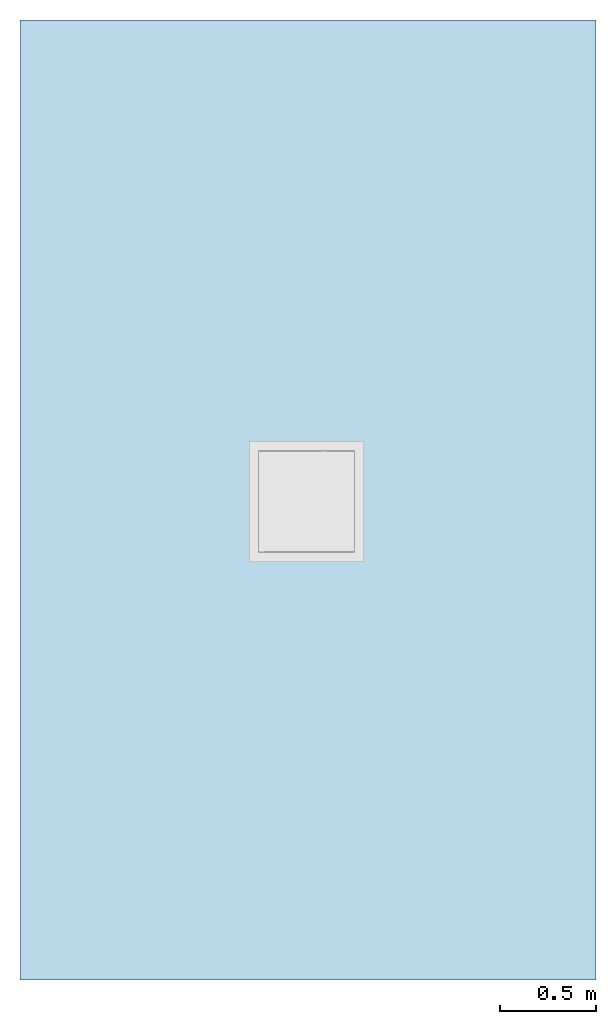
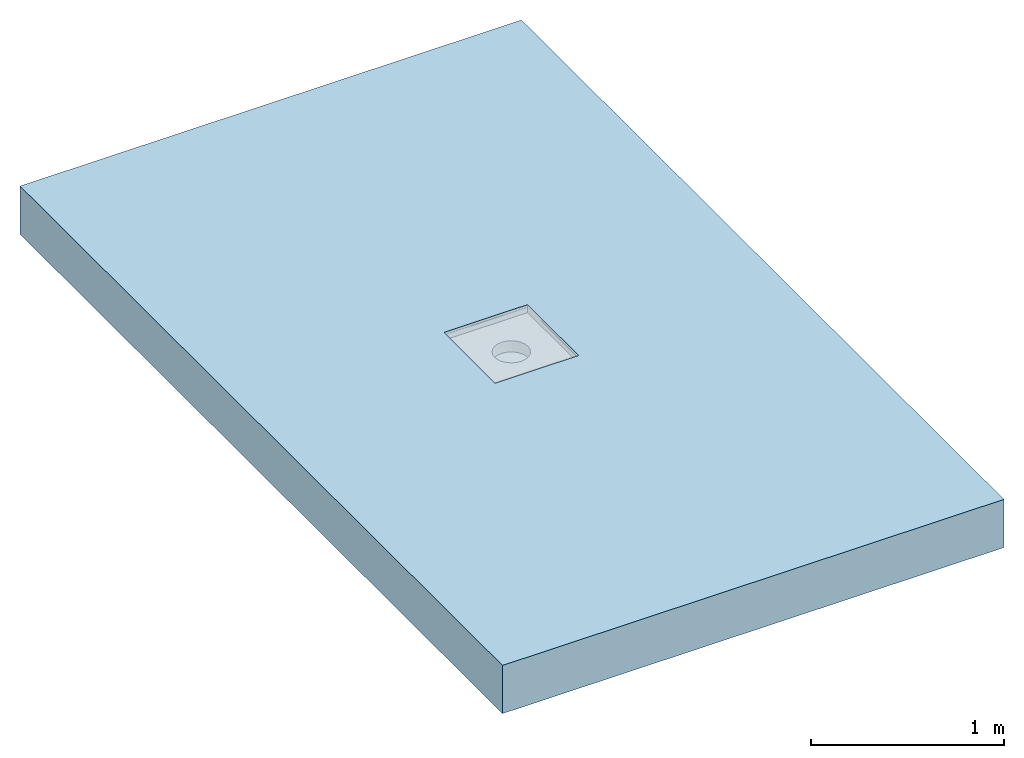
# One storey, incomplete: 1 slab, 1 opening.
"""IFC2X3 building model written with IfcOpenShell, lengths in millimetres."""

from ifc_helpers import new_model, entity, si_unit, converted_unit, derived_unit, direction, frame, frame_2d, origin, place, context, subcontext, project, spatial, rectangle, extrude, faceted_brep, material, layer, layer_set, layer_usage, element, save


model = new_model("IFC2X3")

# Units and contexts
model_context = context("Model", 3, precision=1e-05, world=origin(), true_north=direction((2.0, 6.12303176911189e-17, 1.0)))
context_of_model = context(None, 3, precision=1e-05, world=origin(), true_north=direction((2.0, 6.12303176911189e-17, 1.0)))
body_context = subcontext(model_context, "Body", "Model", "MODEL_VIEW")
ifc_project = project(units=[si_unit("LENGTHUNIT", "METRE", prefix="MILLI"), converted_unit("AREAUNIT", "SQUARE FOOT", entity("IfcRatioMeasure", 0.09290304), si_unit("AREAUNIT", "SQUARE_METRE"), dimensions=[2, 0, 0, 0, 0, 0, 0]), converted_unit("VOLUMEUNIT", "CUBIC FOOT", entity("IfcRatioMeasure", 0.028316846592), si_unit("VOLUMEUNIT", "CUBIC_METRE"), dimensions=[3, 0, 0, 0, 0, 0, 0]), converted_unit("PLANEANGLEUNIT", "DEGREE", entity("IfcRatioMeasure", 0.0174532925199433), si_unit("PLANEANGLEUNIT", "RADIAN"), dimensions=[0, 0, 0, 0, 0, 0, 0]), si_unit("MASSUNIT", "GRAM", prefix="KILO"), si_unit("TIMEUNIT", "SECOND"), si_unit("THERMODYNAMICTEMPERATUREUNIT", "KELVIN"), derived_unit("THERMALTRANSMITTANCEUNIT", [(si_unit("MASSUNIT", "GRAM", prefix="KILO"), 1), (si_unit("THERMODYNAMICTEMPERATUREUNIT", "KELVIN"), -1), (si_unit("TIMEUNIT", "SECOND"), -3)]), derived_unit("VOLUMETRICFLOWRATEUNIT", [(si_unit("LENGTHUNIT", "METRE"), 3), (si_unit("TIMEUNIT", "SECOND"), -1)]), si_unit("POWERUNIT", "WATT")], contexts=[model_context, context_of_model])

# Site, building, storey
site_placement = place(None, origin())
site = spatial("IfcSite", under=ifc_project, at=site_placement, Name="Default", CompositionType="ELEMENT")
building_placement = place(site_placement, origin())
building = spatial("IfcBuilding", under=site, at=building_placement, CompositionType="ELEMENT")
storey_placement = place(building_placement, origin())
storey = spatial("IfcBuildingStorey", under=building, at=storey_placement, Name="Level 1", CompositionType="ELEMENT", Elevation=0.0)

# Slab, opening
ifc_material = material(Name="Default Floor")
ifc_layer = layer(ifc_material, 304.8)
ifc_layer_set = layer_set([ifc_layer], Name="Floor:Generic - 12\"")
ifc_layer_usage = layer_usage(ifc_layer_set, "AXIS3", "POSITIVE", 0.0)
slab_placement = place(storey_placement, frame((-2592.42688678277, 381.838531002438, -304.8)))
slab = element("IfcSlab", 1, at=slab_placement, inside=storey, material=ifc_layer_usage, Name="Floor:Generic - 12\"", ObjectType="Floor:Generic - 12\"", PredefinedType="FLOOR", context=body_context, shape_type="SweptSolid", body=[
    extrude(rectangle(XDim=5000.0, YDim=3000.0, at=frame_2d((0.0, 0.0), x_axis=(0.0, -1.0))), frame((1500.0, 2500.0, 304.8), z_axis=(0.0, 0.0, -1.0), x_axis=(-1.0, 0.0, 0.0)), (0.0, 0.0, 1.0), 304.8),
])
opening_placement = place(slab_placement, frame((1191.52205819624, 2177.41393615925, 184.151793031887)))
element("IfcOpeningElement", 2, at=opening_placement, cuts=slab, ObjectType="Recess", context=body_context, shape_type="Brep", body=[
    faceted_brep([(50.0, 50.0, 105.648206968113), (50.0, 50.0, 120.648206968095), (50.0, 580.0, 120.648206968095), (50.0, 580.0, 105.648206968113), (50.0, 50.0, 70.6482069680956), (50.0, 50.0, 104.148206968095), (50.0, 580.0, 104.148206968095), (50.0, 580.0, 70.6482069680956), (549.667309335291, 50.0, 104.148206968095), (549.667309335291, 50.0, 70.648206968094), (549.667309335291, 580.0, 70.648206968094), (549.667309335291, 580.0, 104.148206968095), (549.667309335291, 50.0, 120.648206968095), (549.667309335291, 50.0, 105.648206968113), (549.667309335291, 580.0, 105.648206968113), (549.667309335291, 580.0, 120.648206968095), (249.833654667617, 228.397459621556, 70.6482069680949), (273.951750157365, 218.407417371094, 70.6482069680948), (229.122976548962, 244.289321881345, 70.648206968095), (299.833654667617, 215.0, 70.6482069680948), (199.833654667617, 315.0, 70.6482069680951), (203.24107203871, 289.118095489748, 70.6482069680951), (213.231114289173, 265.0, 70.648206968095), (325.715559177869, 218.407417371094, 70.6482069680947), (349.833654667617, 228.397459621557, 70.6482069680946), (370.544332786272, 244.289321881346, 70.6482069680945), (386.436195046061, 265.0, 70.6482069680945), (396.426237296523, 289.118095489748, 70.6482069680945), (399.833654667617, 315.0, 70.6482069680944), (213.231114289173, 365.0, 70.648206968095), (203.24107203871, 340.881904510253, 70.6482069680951), (229.122976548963, 385.710678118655, 70.648206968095), (249.833654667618, 401.602540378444, 70.6482069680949), (273.951750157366, 411.592582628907, 70.6482069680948), (299.833654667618, 415.0, 70.6482069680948), (396.426237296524, 340.881904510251, 70.6482069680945), (386.436195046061, 365.0, 70.6482069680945), (349.833654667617, 401.602540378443, 70.6482069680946), (325.715559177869, 411.592582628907, 70.6482069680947), (370.544332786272, 385.710678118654, 70.6482069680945), (299.833654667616, 215.0, 0.0), (273.951750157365, 411.592582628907, 0.0), (325.715559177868, 218.407417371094, 0.0), (249.833654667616, 228.397459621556, 0.0), (273.951750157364, 218.407417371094, 0.0), (229.122976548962, 385.710678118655, 0.0), (229.122976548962, 244.289321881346, 0.0), (213.231114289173, 265.0, 0.0), (370.544332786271, 385.710678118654, 0.0), (349.833654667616, 228.397459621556, 0.0), (370.544332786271, 244.289321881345, 0.0), (396.426237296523, 289.118095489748, 0.0), (396.426237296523, 340.881904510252, 0.0), (399.833654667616, 315.0, 0.0), (386.43619504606, 265.0, 0.0), (203.241072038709, 289.118095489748, 0.0), (203.24107203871, 340.881904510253, 0.0), (213.231114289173, 365.0, 0.0), (249.833654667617, 401.602540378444, 0.0), (386.43619504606, 365.0, 0.0), (325.715559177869, 411.592582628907, 0.0), (349.833654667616, 401.602540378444, 0.0), (299.833654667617, 415.0, 0.0), (199.833654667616, 315.0, 0.0), (0.0, 0.0, 104.148206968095), (599.667309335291, 0.0, 104.148206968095), (0.0, 630.0, 104.148206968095), (599.667309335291, 630.0, 104.148206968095), (0.0, 630.0, 105.648206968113), (599.667309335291, 630.0, 105.648206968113), (0.0, 0.0, 105.648206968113), (599.667309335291, 0.0, 105.648206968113)], [[[0, 1, 2]], [[2, 3, 0]], [[4, 5, 6]], [[6, 7, 4]], [[8, 9, 10]], [[10, 11, 8]], [[12, 13, 14]], [[14, 15, 12]], [[9, 8, 4]], [[5, 4, 8]], [[13, 12, 1]], [[1, 0, 13]], [[7, 6, 11]], [[11, 10, 7]], [[3, 2, 15]], [[15, 14, 3]], [[1, 12, 15]], [[15, 2, 1]], [[4, 16, 17]], [[16, 4, 18]], [[4, 17, 19]], [[20, 21, 4]], [[22, 18, 4]], [[21, 22, 4]], [[4, 7, 20]], [[9, 19, 23]], [[19, 9, 4]], [[9, 23, 24]], [[24, 25, 9]], [[26, 27, 9]], [[25, 26, 9]], [[9, 27, 28]], [[29, 30, 7]], [[31, 29, 7]], [[32, 7, 33]], [[7, 32, 31]], [[34, 33, 7]], [[7, 10, 34]], [[30, 20, 7]], [[35, 36, 10]], [[28, 35, 10]], [[37, 38, 10]], [[39, 10, 36]], [[10, 39, 37]], [[38, 34, 10]], [[28, 10, 9]], [[40, 41, 42]], [[43, 41, 44]], [[45, 46, 47]], [[43, 46, 41]], [[40, 44, 41]], [[42, 48, 49]], [[49, 48, 50]], [[51, 52, 53]], [[54, 50, 48]], [[51, 54, 52]], [[47, 55, 45]], [[56, 57, 55]], [[55, 57, 45]], [[41, 46, 58]], [[46, 45, 58]], [[48, 42, 41]], [[48, 59, 54]], [[52, 54, 59]], [[48, 60, 61]], [[60, 48, 62]], [[62, 48, 41]], [[56, 55, 63]], [[52, 35, 53]], [[59, 36, 52]], [[38, 60, 62]], [[48, 39, 59]], [[52, 36, 35]], [[35, 28, 53]], [[61, 37, 39]], [[61, 60, 37]], [[60, 38, 37]], [[39, 36, 59]], [[39, 48, 61]], [[62, 34, 38]], [[33, 41, 58]], [[45, 32, 58]], [[29, 57, 56]], [[45, 57, 31]], [[30, 56, 63]], [[41, 33, 34]], [[58, 32, 33]], [[45, 31, 32]], [[57, 29, 31]], [[30, 29, 56]], [[63, 20, 30]], [[41, 34, 62]], [[55, 21, 63]], [[47, 22, 55]], [[47, 46, 18]], [[46, 43, 16]], [[55, 22, 21]], [[21, 20, 63]], [[19, 17, 44]], [[17, 16, 43]], [[18, 46, 16]], [[18, 22, 47]], [[44, 17, 43]], [[44, 40, 19]], [[23, 42, 49]], [[50, 24, 49]], [[26, 54, 51]], [[50, 54, 25]], [[27, 51, 53]], [[42, 23, 19]], [[49, 24, 23]], [[50, 25, 24]], [[54, 26, 25]], [[27, 26, 51]], [[53, 28, 27]], [[42, 19, 40]], [[64, 5, 8]], [[5, 64, 6]], [[65, 8, 11]], [[8, 65, 64]], [[6, 66, 11]], [[66, 6, 64]], [[11, 67, 65]], [[67, 11, 66]], [[68, 3, 14]], [[3, 68, 0]], [[69, 14, 13]], [[14, 69, 68]], [[0, 70, 13]], [[70, 0, 68]], [[13, 71, 69]], [[71, 13, 70]], [[70, 68, 64]], [[66, 64, 68]], [[71, 70, 64]], [[64, 65, 71]], [[69, 71, 67]], [[65, 67, 71]], [[68, 69, 67]], [[67, 66, 68]]]),
])

save(model, "model.ifc")
